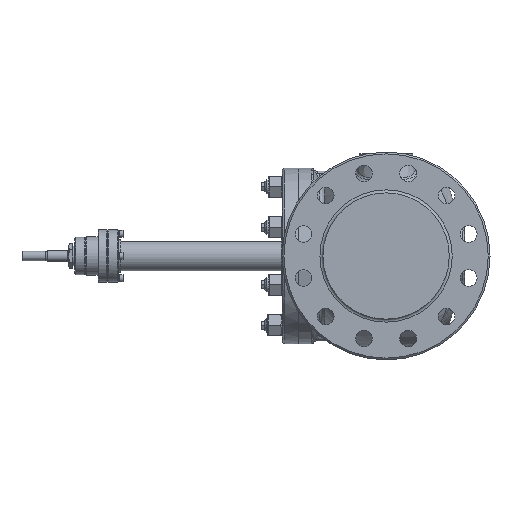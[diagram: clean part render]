
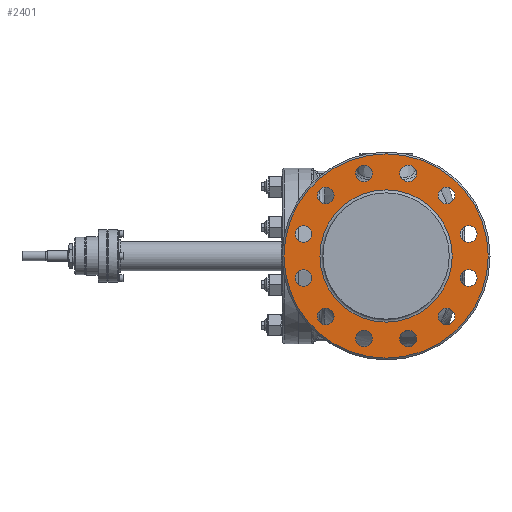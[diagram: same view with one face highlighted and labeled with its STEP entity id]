
A CAD part, left-side view. The second image highlights one B-rep face of the part: STEP entity #2401.
In plain terms, the highlighted planar face has unit normal (-1, 0, 0).
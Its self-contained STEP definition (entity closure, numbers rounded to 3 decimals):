
#1593=PLANE('',#11109);
#2401=ADVANCED_FACE('',(#3371,#3372,#3373,#3374,#3375,#3376,#3377,#3378,
#3379,#3380,#3381,#3382,#3383,#3384),#1593,.T.);
#3371=FACE_BOUND('',#4000,.T.);
#3372=FACE_BOUND('',#4001,.T.);
#3373=FACE_BOUND('',#4002,.T.);
#3374=FACE_BOUND('',#4003,.T.);
#3375=FACE_BOUND('',#4004,.T.);
#3376=FACE_BOUND('',#4005,.T.);
#3377=FACE_BOUND('',#4006,.T.);
#3378=FACE_BOUND('',#4007,.T.);
#3379=FACE_BOUND('',#4008,.T.);
#3380=FACE_BOUND('',#4009,.T.);
#3381=FACE_BOUND('',#4010,.T.);
#3382=FACE_BOUND('',#4011,.T.);
#3383=FACE_BOUND('',#4012,.T.);
#3384=FACE_BOUND('',#4013,.T.);
#4000=EDGE_LOOP('',(#5289));
#4001=EDGE_LOOP('',(#5290));
#4002=EDGE_LOOP('',(#5291));
#4003=EDGE_LOOP('',(#5292));
#4004=EDGE_LOOP('',(#5293));
#4005=EDGE_LOOP('',(#5294));
#4006=EDGE_LOOP('',(#5295));
#4007=EDGE_LOOP('',(#5296));
#4008=EDGE_LOOP('',(#5297));
#4009=EDGE_LOOP('',(#5298));
#4010=EDGE_LOOP('',(#5299));
#4011=EDGE_LOOP('',(#5300));
#4012=EDGE_LOOP('',(#5301));
#4013=EDGE_LOOP('',(#5302));
#5289=ORIENTED_EDGE('',*,*,#9080,.T.);
#5290=ORIENTED_EDGE('',*,*,#9081,.F.);
#5291=ORIENTED_EDGE('',*,*,#9082,.F.);
#5292=ORIENTED_EDGE('',*,*,#9083,.F.);
#5293=ORIENTED_EDGE('',*,*,#9084,.F.);
#5294=ORIENTED_EDGE('',*,*,#9085,.F.);
#5295=ORIENTED_EDGE('',*,*,#9086,.F.);
#5296=ORIENTED_EDGE('',*,*,#9087,.F.);
#5297=ORIENTED_EDGE('',*,*,#9088,.F.);
#5298=ORIENTED_EDGE('',*,*,#9089,.F.);
#5299=ORIENTED_EDGE('',*,*,#9090,.F.);
#5300=ORIENTED_EDGE('',*,*,#9091,.F.);
#5301=ORIENTED_EDGE('',*,*,#9092,.F.);
#5302=ORIENTED_EDGE('',*,*,#9093,.T.);
#8074=VERTEX_POINT('',#17492);
#8075=VERTEX_POINT('',#17494);
#8076=VERTEX_POINT('',#17496);
#8077=VERTEX_POINT('',#17498);
#8078=VERTEX_POINT('',#17500);
#8079=VERTEX_POINT('',#17502);
#8080=VERTEX_POINT('',#17504);
#8081=VERTEX_POINT('',#17506);
#8082=VERTEX_POINT('',#17508);
#8083=VERTEX_POINT('',#17510);
#8084=VERTEX_POINT('',#17512);
#8085=VERTEX_POINT('',#17514);
#8086=VERTEX_POINT('',#17516);
#8087=VERTEX_POINT('',#17518);
#9080=EDGE_CURVE('',#8074,#8074,#10407,.T.);
#9081=EDGE_CURVE('',#8075,#8075,#10408,.T.);
#9082=EDGE_CURVE('',#8076,#8076,#10409,.T.);
#9083=EDGE_CURVE('',#8077,#8077,#10410,.T.);
#9084=EDGE_CURVE('',#8078,#8078,#10411,.T.);
#9085=EDGE_CURVE('',#8079,#8079,#10412,.T.);
#9086=EDGE_CURVE('',#8080,#8080,#10413,.T.);
#9087=EDGE_CURVE('',#8081,#8081,#10414,.T.);
#9088=EDGE_CURVE('',#8082,#8082,#10415,.T.);
#9089=EDGE_CURVE('',#8083,#8083,#10416,.T.);
#9090=EDGE_CURVE('',#8084,#8084,#10417,.T.);
#9091=EDGE_CURVE('',#8085,#8085,#10418,.T.);
#9092=EDGE_CURVE('',#8086,#8086,#10419,.T.);
#9093=EDGE_CURVE('',#8087,#8087,#10420,.T.);
#10407=CIRCLE('',#11095,174.5);
#10408=CIRCLE('',#11096,14.3);
#10409=CIRCLE('',#11097,14.3);
#10410=CIRCLE('',#11098,14.3);
#10411=CIRCLE('',#11099,14.3);
#10412=CIRCLE('',#11100,14.3);
#10413=CIRCLE('',#11101,14.3);
#10414=CIRCLE('',#11102,14.3);
#10415=CIRCLE('',#11103,14.3);
#10416=CIRCLE('',#11104,14.3);
#10417=CIRCLE('',#11105,14.3);
#10418=CIRCLE('',#11106,14.3);
#10419=CIRCLE('',#11107,14.3);
#10420=CIRCLE('',#11108,112.95);
#11095=AXIS2_PLACEMENT_3D('',#17491,#12586,#12587);
#11096=AXIS2_PLACEMENT_3D('',#17493,#12588,#12589);
#11097=AXIS2_PLACEMENT_3D('',#17495,#12590,#12591);
#11098=AXIS2_PLACEMENT_3D('',#17497,#12592,#12593);
#11099=AXIS2_PLACEMENT_3D('',#17499,#12594,#12595);
#11100=AXIS2_PLACEMENT_3D('',#17501,#12596,#12597);
#11101=AXIS2_PLACEMENT_3D('',#17503,#12598,#12599);
#11102=AXIS2_PLACEMENT_3D('',#17505,#12600,#12601);
#11103=AXIS2_PLACEMENT_3D('',#17507,#12602,#12603);
#11104=AXIS2_PLACEMENT_3D('',#17509,#12604,#12605);
#11105=AXIS2_PLACEMENT_3D('',#17511,#12606,#12607);
#11106=AXIS2_PLACEMENT_3D('',#17513,#12608,#12609);
#11107=AXIS2_PLACEMENT_3D('',#17515,#12610,#12611);
#11108=AXIS2_PLACEMENT_3D('',#17517,#12612,#12613);
#11109=AXIS2_PLACEMENT_3D('',#17519,#12614,#12615);
#12586=DIRECTION('',(-1.,0.,0.));
#12587=DIRECTION('',(0.,0.,1.));
#12588=DIRECTION('',(-1.,0.,0.));
#12589=DIRECTION('',(0.,0.,1.));
#12590=DIRECTION('',(-1.,0.,0.));
#12591=DIRECTION('',(0.,0.,1.));
#12592=DIRECTION('',(-1.,0.,0.));
#12593=DIRECTION('',(0.,0.,1.));
#12594=DIRECTION('',(-1.,0.,0.));
#12595=DIRECTION('',(0.,0.,1.));
#12596=DIRECTION('',(-1.,0.,0.));
#12597=DIRECTION('',(0.,0.,1.));
#12598=DIRECTION('',(-1.,0.,0.));
#12599=DIRECTION('',(0.,0.,1.));
#12600=DIRECTION('',(-1.,0.,0.));
#12601=DIRECTION('',(0.,0.,1.));
#12602=DIRECTION('',(-1.,0.,0.));
#12603=DIRECTION('',(0.,0.,1.));
#12604=DIRECTION('',(-1.,0.,0.));
#12605=DIRECTION('',(0.,0.,1.));
#12606=DIRECTION('',(-1.,0.,0.));
#12607=DIRECTION('',(0.,0.,1.));
#12608=DIRECTION('',(-1.,0.,0.));
#12609=DIRECTION('',(0.,0.,1.));
#12610=DIRECTION('',(-1.,0.,0.));
#12611=DIRECTION('',(0.,0.,1.));
#12612=DIRECTION('',(1.,0.,0.));
#12613=DIRECTION('',(0.,0.,1.));
#12614=DIRECTION('',(-1.,0.,0.));
#12615=DIRECTION('',(0.,0.,1.));
#17491=CARTESIAN_POINT('',(-247.,0.,0.));
#17492=CARTESIAN_POINT('',(-247.,0.,174.5));
#17493=CARTESIAN_POINT('',(-247.,103.273,103.273));
#17494=CARTESIAN_POINT('',(-247.,103.273,117.573));
#17495=CARTESIAN_POINT('',(-247.,37.801,141.073));
#17496=CARTESIAN_POINT('',(-247.,37.801,155.373));
#17497=CARTESIAN_POINT('',(-247.,-37.801,141.073));
#17498=CARTESIAN_POINT('',(-247.,-37.801,155.373));
#17499=CARTESIAN_POINT('',(-247.,-103.273,103.273));
#17500=CARTESIAN_POINT('',(-247.,-103.273,117.573));
#17501=CARTESIAN_POINT('',(-247.,-141.073,37.801));
#17502=CARTESIAN_POINT('',(-247.,-141.073,52.101));
#17503=CARTESIAN_POINT('',(-247.,-141.073,-37.801));
#17504=CARTESIAN_POINT('',(-247.,-141.073,-23.501));
#17505=CARTESIAN_POINT('',(-247.,-103.273,-103.273));
#17506=CARTESIAN_POINT('',(-247.,-103.273,-88.973));
#17507=CARTESIAN_POINT('',(-247.,-37.801,-141.073));
#17508=CARTESIAN_POINT('',(-247.,-37.801,-126.773));
#17509=CARTESIAN_POINT('',(-247.,37.801,-141.073));
#17510=CARTESIAN_POINT('',(-247.,37.801,-126.773));
#17511=CARTESIAN_POINT('',(-247.,103.273,-103.273));
#17512=CARTESIAN_POINT('',(-247.,103.273,-88.973));
#17513=CARTESIAN_POINT('',(-247.,141.073,-37.801));
#17514=CARTESIAN_POINT('',(-247.,141.073,-23.501));
#17515=CARTESIAN_POINT('',(-247.,141.073,37.801));
#17516=CARTESIAN_POINT('',(-247.,141.073,52.101));
#17517=CARTESIAN_POINT('',(-247.,0.,0.));
#17518=CARTESIAN_POINT('',(-247.,0.,112.95));
#17519=CARTESIAN_POINT('',(-247.,177.5,0.));
